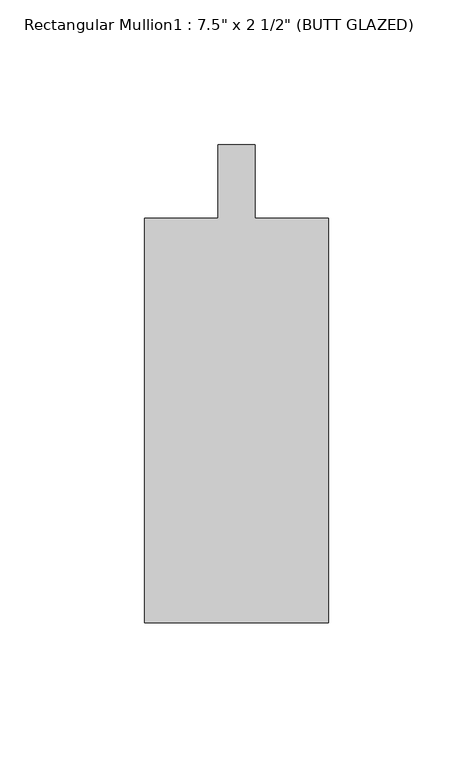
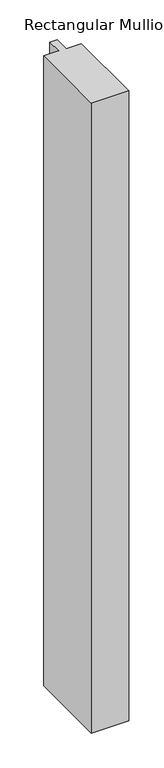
"""IFC4 building model written with IfcOpenShell, lengths in millimetres: member geometry."""

from ifc_helpers import new_model, si_unit, frame, origin, place, context, project, spatial, polyline, outline, extrude, source, transform, mapped, element, save


def member_912f4081(model_context):
    return source(origin(), model_context, "Body", "SweptSolid", [
        extrude(outline(polyline([(31.75, -165.1), (-31.75, -165.1), (-31.75, -25.4), (-6.35, -25.4), (-6.35, 0.0), (6.35, 0.0), (6.35, -25.4), (31.75, -25.4), (31.75, -165.1)])), frame((0.0, 0.0, -1124.7926944), z_axis=(0.0, 0.0, 1.0), x_axis=(1.0, 0.0, 0.0)), (0.0, 0.0, 1.0), 1124.7926944),
    ])


if __name__ == "__main__":
    model = new_model("IFC4")
    model_context = context("Model", 3, world=origin())
    ifc_project = project(units=[si_unit("LENGTHUNIT", "METRE", prefix="MILLI")], contexts=[model_context])
    site = spatial("IfcSite", under=ifc_project)
    building = spatial("IfcBuilding", under=site)
    placement = place(None, origin())
    member_shape = member_912f4081(model_context)
    element("IfcMember", 1, ObjectType="Rectangular Mullion1 : 7.5\" x 2 1/2\" (BUTT GLAZED)", at=placement, inside=building, context=model_context, shape_type="MappedRepresentation", body=[
        mapped(member_shape, transform((0.0, 0.0, 0.0), x_axis=(1.0, 0.0, 0.0), y_axis=(0.0, 1.0, 0.0), z_axis=(0.0, 0.0, 1.0))),
    ])
    save(model, "model.ifc")
